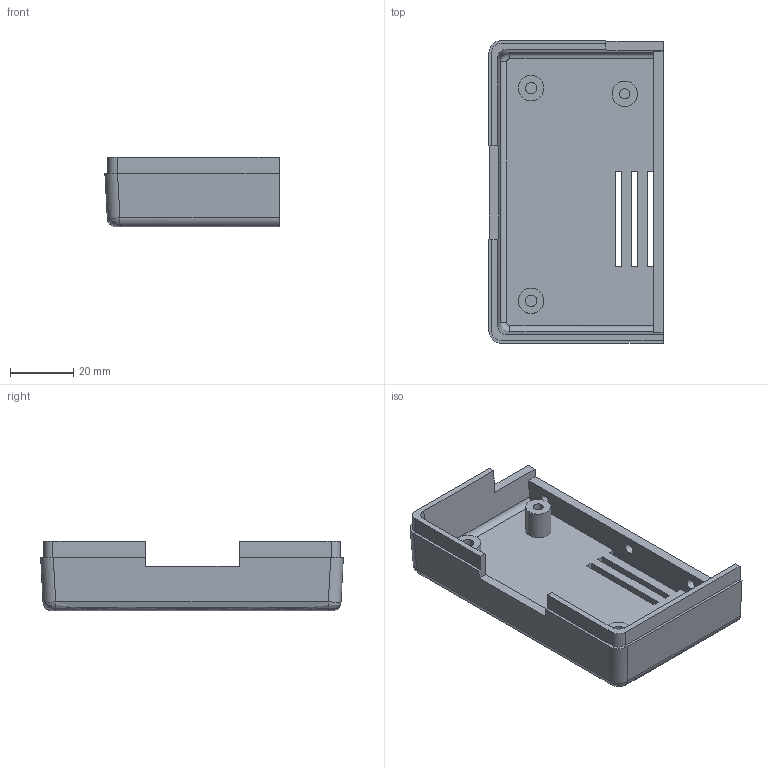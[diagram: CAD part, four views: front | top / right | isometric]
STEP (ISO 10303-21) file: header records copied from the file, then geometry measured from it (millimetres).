
FILE_DESCRIPTION(('FreeCAD Model'),'2;1');
FILE_NAME('Open CASCADE Shape Model','2023-09-06T18:19:51',(''),(''), 'Open CASCADE STEP processor 7.6','FreeCAD','Unknown');
FILE_SCHEMA(('AUTOMOTIVE_DESIGN { 1 0 10303 214 1 1 1 1 }'));
Length unit declared in the file: millimetre
Products named in the file (1): Lower_Left_Sol
Bounding box: 54.89 x 95.37 x 22 mm (x, y, z)
Volume: 26924.5 mm3; surface area: 19994.2 mm2
Topology: 1 solids, 1 shells, 74 faces, 193 edges, 126 vertices
Faces by surface type: plane 46, cylinder 16, bspline 12
Full cylindrical faces by diameter (mm): 3.2 x4, 3.6 x2, 8 x3
Entity records: 7308 total; most frequent: CARTESIAN_POINT 3574, DIRECTION 632, LINE 422, VECTOR 422, ORIENTED_EDGE 386, PCURVE 386, DEFINITIONAL_REPRESENTATION 386, EDGE_CURVE 193
